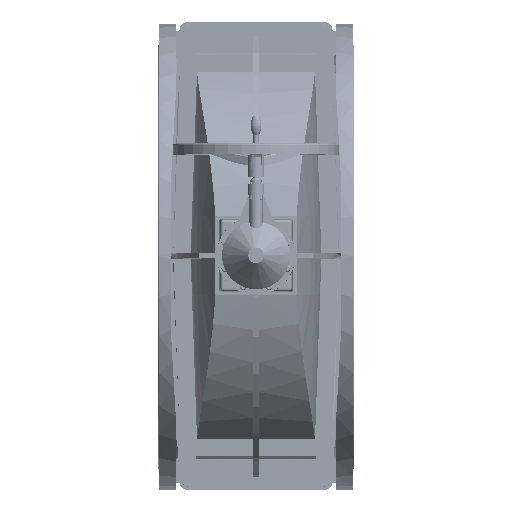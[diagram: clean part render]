
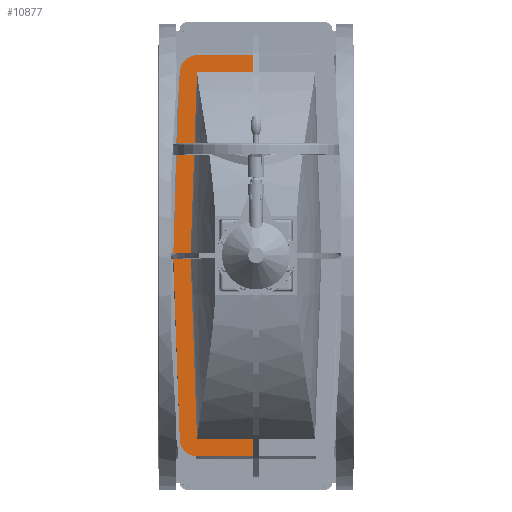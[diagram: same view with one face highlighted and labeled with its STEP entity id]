
A CAD part, top view. The second image highlights one B-rep face of the part: STEP entity #10877.
In plain terms, the highlighted planar face has unit normal (0, 0, 1).
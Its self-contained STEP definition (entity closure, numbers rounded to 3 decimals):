
#10877=ADVANCED_FACE('',(#19919),#19921,.T.);
#19919=FACE_BOUND('',#19920,.T.);
#19920=EDGE_LOOP('',(#34445,#34446,#34447,#34448,#34449,#34450,#34451,#34452,#34453,
#34454,#34455,#34456,#34457,#34458));
#19921=PLANE('',#19922);
#19922=AXIS2_PLACEMENT_3D('',#19923,#19924,#19925);
#19923=CARTESIAN_POINT('',(0.,0.,349.));
#19924=DIRECTION('',(0.,0.,1.));
#19925=DIRECTION('',(1.,0.,0.));
#34445=ORIENTED_EDGE('',*,*,#41251,.F.);
#34446=ORIENTED_EDGE('',*,*,#41252,.T.);
#34447=ORIENTED_EDGE('',*,*,#41238,.T.);
#34448=ORIENTED_EDGE('',*,*,#41202,.T.);
#34449=ORIENTED_EDGE('',*,*,#41220,.T.);
#34450=ORIENTED_EDGE('',*,*,#41253,.T.);
#34451=ORIENTED_EDGE('',*,*,#41254,.F.);
#34452=ORIENTED_EDGE('',*,*,#41255,.T.);
#34453=ORIENTED_EDGE('',*,*,#41108,.T.);
#34454=ORIENTED_EDGE('',*,*,#41196,.T.);
#34455=ORIENTED_EDGE('',*,*,#41211,.T.);
#34456=ORIENTED_EDGE('',*,*,#41151,.T.);
#34457=ORIENTED_EDGE('',*,*,#41141,.T.);
#34458=ORIENTED_EDGE('',*,*,#41256,.T.);
#41108=EDGE_CURVE('',#47972,#47990,#47992,.F.);
#41141=EDGE_CURVE('',#48058,#48055,#48059,.F.);
#41151=EDGE_CURVE('',#48077,#48058,#48078,.F.);
#41196=EDGE_CURVE('',#47990,#48150,#48151,.T.);
#41202=EDGE_CURVE('',#48160,#48161,#48162,.T.);
#41211=EDGE_CURVE('',#48150,#48077,#48178,.F.);
#41220=EDGE_CURVE('',#48161,#48189,#48192,.T.);
#41238=EDGE_CURVE('',#48207,#48160,#48222,.F.);
#41251=EDGE_CURVE('',#48243,#48244,#48245,.F.);
#41252=EDGE_CURVE('',#48243,#48207,#48246,.T.);
#41253=EDGE_CURVE('',#48189,#48247,#48248,.T.);
#41254=EDGE_CURVE('',#48249,#48247,#48250,.F.);
#41255=EDGE_CURVE('',#48249,#47972,#48251,.T.);
#41256=EDGE_CURVE('',#48055,#48244,#48252,.T.);
#47972=VERTEX_POINT('',#70214);
#47990=VERTEX_POINT('',#70252);
#47992=LINE('',#70257,#70258);
#48055=VERTEX_POINT('',#70394);
#48058=VERTEX_POINT('',#70399);
#48059=LINE('',#70400,#70401);
#48077=VERTEX_POINT('',#70441);
#48078=LINE('',#70442,#70443);
#48150=VERTEX_POINT('',#70877);
#48151=LINE('',#70878,#70879);
#48160=VERTEX_POINT('',#70956);
#48161=VERTEX_POINT('',#70957);
#48162=LINE('',#70958,#70959);
#48178=B_SPLINE_CURVE_WITH_KNOTS('',3,
(#70996,#70997,#70998,#70999,#71000,#71001,#71002,#71003,#71004,#71005,#71006,#71007,
#71008,#71009,#71010,#71011,#71012,#71013,#71014,#71015),
.UNSPECIFIED.,.F.,.F.,
(4,1,1,1,1,1,1,1,1,1,1,1,1,1,1,1,1,4),
(0.,0.005,0.011,0.017,0.029,
0.041,0.063,0.088,0.129,0.183,
0.255,0.367,0.466,0.5,0.652,
0.726,0.907,1.),
.UNSPECIFIED.);
#48189=VERTEX_POINT('',#71083);
#48192=LINE('',#71088,#71089);
#48207=VERTEX_POINT('',#71122);
#48222=LINE('',#71156,#71157);
#48243=VERTEX_POINT('',#71199);
#48244=VERTEX_POINT('',#71200);
#48245=CIRCLE('',#71201,62.5);
#48246=TRIMMED_CURVE('',#71205,(PARAMETER_VALUE(0.)),(PARAMETER_VALUE(0.493)),
.T.,.PARAMETER.);
#48247=VERTEX_POINT('',#71206);
#48248=TRIMMED_CURVE('',#71207,(PARAMETER_VALUE(0.507)),(PARAMETER_VALUE(
1.)),.T.,.PARAMETER.);
#48249=VERTEX_POINT('',#71208);
#48250=CIRCLE('',#71209,62.5);
#48251=LINE('',#71213,#71214);
#48252=LINE('',#71216,#71217);
#70214=CARTESIAN_POINT('',(-726.051,10.,349.));
#70252=CARTESIAN_POINT('',(-664.168,10.,349.));
#70257=CARTESIAN_POINT('',(-664.168,10.,349.));
#70258=VECTOR('',#70259,1.);
#70259=DIRECTION('',(-1.,0.,0.));
#70394=CARTESIAN_POINT('',(726.051,10.,349.));
#70399=CARTESIAN_POINT('',(664.168,10.,349.));
#70400=CARTESIAN_POINT('',(726.051,10.,349.));
#70401=VECTOR('',#70402,1.);
#70402=DIRECTION('',(-1.,0.,0.));
#70441=CARTESIAN_POINT('',(664.168,213.573,349.));
#70442=CARTESIAN_POINT('',(664.168,10.,349.));
#70443=VECTOR('',#70444,1.);
#70444=DIRECTION('',(0.,1.,0.));
#70877=CARTESIAN_POINT('',(-664.168,213.573,349.));
#70878=CARTESIAN_POINT('',(-664.168,10.,349.));
#70879=VECTOR('',#70880,1.);
#70880=DIRECTION('',(0.,1.,0.));
#70956=CARTESIAN_POINT('',(10.,236.869,349.));
#70957=CARTESIAN_POINT('',(-10.,236.869,349.));
#70958=CARTESIAN_POINT('',(10.,236.869,349.));
#70959=VECTOR('',#70960,1.);
#70960=DIRECTION('',(-1.,0.,0.));
#70996=CARTESIAN_POINT('',(664.168,213.573,349.));
#70997=CARTESIAN_POINT('',(662.163,213.714,349.));
#70998=CARTESIAN_POINT('',(657.152,214.065,349.));
#70999=CARTESIAN_POINT('',(649.635,214.584,349.));
#71000=CARTESIAN_POINT('',(638.609,215.337,349.));
#71001=CARTESIAN_POINT('',(625.577,216.209,349.));
#71002=CARTESIAN_POINT('',(605.024,217.551,349.));
#71003=CARTESIAN_POINT('',(578.953,219.191,349.));
#71004=CARTESIAN_POINT('',(539.84,221.52,349.));
#71005=CARTESIAN_POINT('',(487.173,224.412,349.));
#71006=CARTESIAN_POINT('',(413.246,227.983,349.));
#71007=CARTESIAN_POINT('',(307.834,232.139,349.));
#71008=CARTESIAN_POINT('',(182.115,235.466,349.));
#71009=CARTESIAN_POINT('',(73.744,236.73,349.));
#71010=CARTESIAN_POINT('',(-52.241,237.028,349.));
#71011=CARTESIAN_POINT('',(-167.136,235.807,349.));
#71012=CARTESIAN_POINT('',(-347.313,231.041,349.));
#71013=CARTESIAN_POINT('',(-501.57,224.197,349.));
#71014=CARTESIAN_POINT('',(-622.937,216.47,349.));
#71015=CARTESIAN_POINT('',(-664.168,213.573,349.));
#71083=CARTESIAN_POINT('',(-10.,299.254,349.));
#71088=CARTESIAN_POINT('',(-10.,236.869,349.));
#71089=VECTOR('',#71090,1.);
#71090=DIRECTION('',(0.,1.,0.));
#71122=CARTESIAN_POINT('',(10.,299.254,349.));
#71156=CARTESIAN_POINT('',(10.,236.869,349.));
#71157=VECTOR('',#71158,1.);
#71158=DIRECTION('',(0.,1.,0.));
#71199=CARTESIAN_POINT('',(667.927,275.852,349.));
#71200=CARTESIAN_POINT('',(726.051,213.505,349.));
#71201=AXIS2_PLACEMENT_3D('',#71202,#71203,#71204);
#71202=CARTESIAN_POINT('',(663.551,213.505,349.));
#71203=DIRECTION('',(0.,0.,1.));
#71204=DIRECTION('',(1.,0.,0.));
#71205=B_SPLINE_CURVE_WITH_KNOTS('',3,
(#88838,#88839,#88840,#88841,#88842,#88843),
.UNSPECIFIED.,.F.,.F.,
(4,1,1,4),
(0.,0.333,0.667,1.),
.UNSPECIFIED.);
#71206=CARTESIAN_POINT('',(-667.927,275.852,349.));
#71207=B_SPLINE_CURVE_WITH_KNOTS('',3,
(#88844,#88845,#88846,#88847,#88848,#88849),
.UNSPECIFIED.,.F.,.F.,
(4,1,1,4),
(0.,0.333,0.667,1.),
.UNSPECIFIED.);
#71208=CARTESIAN_POINT('',(-726.051,213.505,349.));
#71209=AXIS2_PLACEMENT_3D('',#71210,#71211,#71212);
#71210=CARTESIAN_POINT('',(-663.551,213.505,349.));
#71211=DIRECTION('',(0.,0.,1.));
#71212=DIRECTION('',(-0.07,0.998,0.));
#71213=CARTESIAN_POINT('',(-726.051,213.505,349.));
#71214=VECTOR('',#71215,1.);
#71215=DIRECTION('',(0.,-1.,0.));
#71216=CARTESIAN_POINT('',(726.051,10.,349.));
#71217=VECTOR('',#71218,1.);
#71218=DIRECTION('',(0.,1.,0.));
#88838=CARTESIAN_POINT('',(667.927,275.852,349.));
#88839=CARTESIAN_POINT('',(519.741,286.254,349.));
#88840=CARTESIAN_POINT('',(222.885,300.126,349.));
#88841=CARTESIAN_POINT('',(-222.884,300.127,349.));
#88842=CARTESIAN_POINT('',(-519.74,286.252,349.));
#88843=CARTESIAN_POINT('',(-667.927,275.852,349.));
#88844=CARTESIAN_POINT('',(667.927,275.852,349.));
#88845=CARTESIAN_POINT('',(519.741,286.254,349.));
#88846=CARTESIAN_POINT('',(222.885,300.126,349.));
#88847=CARTESIAN_POINT('',(-222.884,300.127,349.));
#88848=CARTESIAN_POINT('',(-519.74,286.252,349.));
#88849=CARTESIAN_POINT('',(-667.927,275.852,349.));
